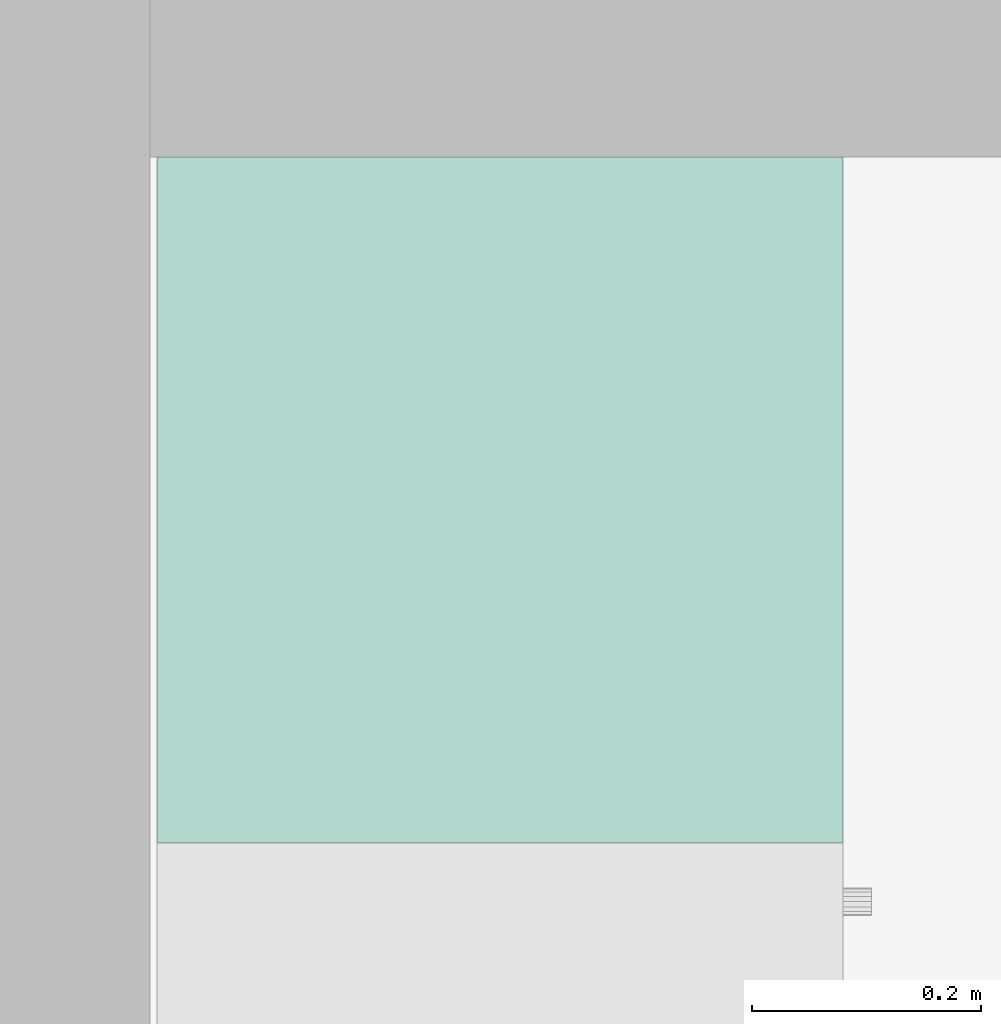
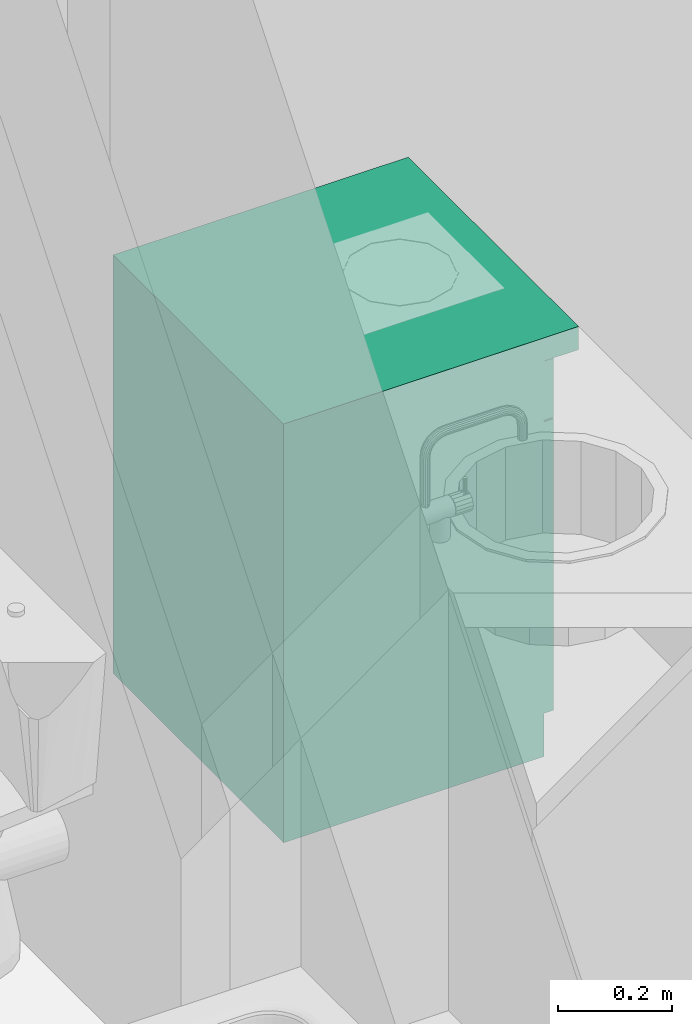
# One storey, part 36 of 165: 1 flow terminal.
"""IFC2X3 building model written with IfcOpenShell, lengths in millimetres."""

from ifc_helpers import new_model, entity, si_unit, converted_unit, money_unit, direction, frame, origin_with_axes, place, context, subcontext, project, spatial, faceted_brep, source, transform, mapped, material, material_list, type_object, element, save


model = new_model("IFC2X3")

# Units and contexts
model_context = context("Model", 3, precision=1e-05, world=origin_with_axes(), true_north=direction((0.0, 1.0)))
body_context = subcontext(model_context, "Body", "Model", "MODEL_VIEW")
ifc_project = project(units=[si_unit("LENGTHUNIT", "METRE", prefix="MILLI"), si_unit("AREAUNIT", "SQUARE_METRE"), si_unit("VOLUMEUNIT", "CUBIC_METRE"), converted_unit("PLANEANGLEUNIT", "DEGREE", entity("IfcPlaneAngleMeasure", 0.0174532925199), si_unit("PLANEANGLEUNIT", "RADIAN"), dimensions=[0, 0, 0, 0, 0, 0, 0]), si_unit("SOLIDANGLEUNIT", "STERADIAN"), money_unit("USD"), converted_unit("TIMEUNIT", "Year", entity("IfcTimeMeasure", 31556926.0), si_unit("TIMEUNIT", "SECOND"), dimensions=[0, 0, 0, 0, 0, 0, 0]), si_unit("MASSUNIT", "GRAM"), si_unit("THERMODYNAMICTEMPERATUREUNIT", "DEGREE_CELSIUS"), si_unit("LUMINOUSINTENSITYUNIT", "LUMEN")], contexts=[model_context])

# Site, building, storey
site_placement = place(None, origin_with_axes())
site = spatial("IfcSite", under=ifc_project, at=site_placement, Name="Site", CompositionType="ELEMENT")
building_placement = place(site_placement, origin_with_axes())
building = spatial("IfcBuilding", under=site, at=building_placement, Name="Building", CompositionType="ELEMENT")
storey_placement = place(building_placement, frame((0.0, 0.0, 6300.0), z_axis=(0.0, 0.0, 1.0), x_axis=(1.0, 0.0, 0.0)))
storey = spatial("IfcBuildingStorey", under=building, at=storey_placement, Name="4KORRUS", CompositionType="ELEMENT", Elevation=6300.0)

# Flow terminal
ifc_material = material(Name="Background")
ifc_material_list = material_list([ifc_material])
sanitary_terminal_type = type_object("IfcSanitaryTerminalType", Name="Cabinet Base Single Door 19", PredefinedType="SINK")
shared_shape = source(origin_with_axes(), body_context, "Body", "Brep", [
    faceted_brep([(20.0, 70.0, 710.0), (580.0, 70.0, 710.0), (580.0, 70.0, 730.0), (20.0, 70.0, 730.0), (20.0, 580.0, 710.0), (580.0, 580.0, 710.0), (580.0, 580.0, 730.0), (20.0, 580.0, 730.0)], [[[0, 1, 2, 3]], [[0, 4, 5, 1]], [[1, 5, 6, 2]], [[3, 2, 6, 7]], [[4, 0, 3, 7]], [[5, 4, 7, 6]]]),
    faceted_brep([(0.0, 70.0, 0.0), (600.0, 70.0, 0.0), (600.0, 70.0, 90.0), (0.0, 70.0, 90.0), (0.0, 600.0, 0.0), (600.0, 600.0, 0.0), (600.0, 600.0, 90.0), (0.0, 600.0, 90.0)], [[[0, 1, 2, 3]], [[0, 4, 5, 1]], [[1, 5, 6, 2]], [[3, 2, 6, 7]], [[4, 0, 3, 7]], [[5, 4, 7, 6]]]),
    faceted_brep([(0.0, 70.0, 830.0), (20.0, 70.0, 830.0), (20.0, 70.0, 850.0), (0.0, 70.0, 850.0), (0.0, 600.0, 830.0), (20.0, 600.0, 830.0), (580.0, 600.0, 830.0), (600.0, 600.0, 830.0), (600.0, 70.0, 830.0), (580.0, 70.0, 830.0), (580.0, 70.0, 850.0), (600.0, 70.0, 850.0), (600.0, 600.0, 850.0), (580.0, 600.0, 850.0), (20.0, 600.0, 850.0), (0.0, 600.0, 850.0)], [[[0, 1, 2, 3]], [[0, 4, 5, 6, 7, 8, 9, 1]], [[1, 9, 10, 2]], [[3, 2, 10, 11, 12, 13, 14, 15]], [[4, 0, 3, 15]], [[5, 4, 15, 14]], [[6, 5, 14, 13]], [[7, 6, 13, 12]], [[8, 7, 12, 11]], [[9, 8, 11, 10]]]),
    faceted_brep([(0.0, 70.0, 90.0), (20.0, 70.0, 90.0), (20.0, 70.0, 110.0), (0.0, 70.0, 110.0), (0.0, 600.0, 90.0), (20.0, 600.0, 90.0), (580.0, 600.0, 90.0), (600.0, 600.0, 90.0), (600.0, 70.0, 90.0), (580.0, 70.0, 90.0), (580.0, 70.0, 110.0), (600.0, 70.0, 110.0), (600.0, 600.0, 110.0), (580.0, 600.0, 110.0), (20.0, 600.0, 110.0), (0.0, 600.0, 110.0)], [[[0, 1, 2, 3]], [[0, 4, 5, 6, 7, 8, 9, 1]], [[1, 9, 10, 2]], [[3, 2, 10, 11, 12, 13, 14, 15]], [[4, 0, 3, 15]], [[5, 4, 15, 14]], [[6, 5, 14, 13]], [[7, 6, 13, 12]], [[8, 7, 12, 11]], [[9, 8, 11, 10]]]),
    faceted_brep([(0.0, 70.0, 110.0), (20.0, 70.0, 110.0), (20.0, 70.0, 830.0), (0.0, 70.0, 830.0), (0.0, 600.0, 110.0), (600.0, 600.0, 110.0), (600.0, 70.0, 110.0), (580.0, 70.0, 110.0), (580.0, 580.0, 110.0), (20.0, 580.0, 110.0), (20.0, 580.0, 830.0), (580.0, 580.0, 830.0), (580.0, 70.0, 830.0), (600.0, 70.0, 830.0), (600.0, 600.0, 830.0), (0.0, 600.0, 830.0)], [[[0, 1, 2, 3]], [[0, 4, 5, 6, 7, 8, 9, 1]], [[1, 9, 10, 2]], [[3, 2, 10, 11, 12, 13, 14, 15]], [[4, 0, 3, 15]], [[5, 4, 15, 14]], [[6, 5, 14, 13]], [[7, 6, 13, 12]], [[8, 7, 12, 11]], [[9, 8, 11, 10]]]),
    faceted_brep([(580.0, 70.0, 385.0), (580.0, 580.0, 385.0), (580.0, 580.0, 405.0), (580.0, 70.0, 405.0), (20.0, 70.0, 385.0), (20.0, 580.0, 385.0), (20.0, 580.0, 405.0), (20.0, 70.0, 405.0)], [[[0, 1, 2, 3]], [[0, 4, 5, 1]], [[1, 5, 6, 2]], [[3, 2, 6, 7]], [[4, 0, 3, 7]], [[5, 4, 7, 6]]]),
    faceted_brep([(0.0, 0.0, 850.0), (600.0, 0.0, 850.0), (600.0, 0.0, 900.0), (0.0, 0.0, 900.0), (0.0, 600.0, 850.0), (600.0, 600.0, 850.0), (600.0, 600.0, 900.0), (0.0, 600.0, 900.0)], [[[0, 1, 2, 3]], [[0, 4, 5, 1]], [[1, 5, 6, 2]], [[3, 2, 6, 7]], [[4, 0, 3, 7]], [[5, 4, 7, 6]]]),
    faceted_brep([(1.5, 70.0, 721.5), (598.5, 70.0, 721.5), (598.5, 50.0, 721.5), (1.5, 50.0, 721.5), (1.5, 70.0, 848.5), (598.5, 70.0, 848.5), (598.5, 50.0, 848.5), (1.5, 50.0, 848.5)], [[[0, 1, 2, 3]], [[0, 4, 5, 1]], [[1, 5, 6, 2]], [[3, 2, 6, 7]], [[4, 0, 3, 7]], [[5, 4, 7, 6]]]),
    faceted_brep([(295.408, 50.0, 773.913), (291.515, 50.0, 776.515), (288.913, 50.0, 780.408), (288.0, 50.0, 785.0), (288.913, 50.0, 789.592), (291.515, 50.0, 793.485), (295.408, 50.0, 796.087), (300.0, 50.0, 797.0), (304.592, 50.0, 796.087), (308.485, 50.0, 793.485), (311.087, 50.0, 789.592), (312.0, 50.0, 785.0), (311.087, 50.0, 780.408), (308.485, 50.0, 776.515), (304.592, 50.0, 773.913), (300.0, 50.0, 773.0), (295.408, 25.0, 773.913), (291.515, 25.0, 776.515), (288.913, 25.0, 780.408), (288.0, 25.0, 785.0), (288.913, 25.0, 789.592), (291.515, 25.0, 793.485), (295.408, 25.0, 796.087), (300.0, 25.0, 797.0), (304.592, 25.0, 796.087), (308.485, 25.0, 793.485), (311.087, 25.0, 789.592), (312.0, 25.0, 785.0), (311.087, 25.0, 780.408), (308.485, 25.0, 776.515), (304.592, 25.0, 773.913), (300.0, 25.0, 773.0)], [[[0, 1, 2, 3, 4, 5, 6, 7, 8, 9, 10, 11, 12, 13, 14, 15]], [[1, 0, 16, 17]], [[2, 1, 17, 18]], [[3, 2, 18, 19]], [[4, 3, 19, 20]], [[5, 4, 20, 21]], [[6, 5, 21, 22]], [[7, 6, 22, 23]], [[8, 7, 23, 24]], [[9, 8, 24, 25]], [[10, 9, 25, 26]], [[11, 10, 26, 27]], [[12, 11, 27, 28]], [[13, 12, 28, 29]], [[14, 13, 29, 30]], [[15, 14, 30, 31]], [[0, 15, 31, 16]], [[16, 31, 30, 29, 28, 27, 26, 25, 24, 23, 22, 21, 20, 19, 18, 17]]]),
    faceted_brep([(1.5, 70.0, 91.5), (598.5, 70.0, 91.5), (598.5, 50.0, 91.5), (1.5, 50.0, 91.5), (1.5, 70.0, 718.5), (598.5, 70.0, 718.5), (598.5, 50.0, 718.5), (1.5, 50.0, 718.5)], [[[0, 1, 2, 3]], [[0, 4, 5, 1]], [[1, 5, 6, 2]], [[3, 2, 6, 7]], [[4, 0, 3, 7]], [[5, 4, 7, 6]]]),
    faceted_brep([(559.587, 50.0, 636.908), (556.985, 50.0, 633.015), (553.092, 50.0, 630.413), (548.5, 50.0, 629.5), (543.908, 50.0, 630.413), (540.015, 50.0, 633.015), (537.413, 50.0, 636.908), (536.5, 50.0, 641.5), (537.413, 50.0, 646.092), (540.015, 50.0, 649.985), (543.908, 50.0, 652.587), (548.5, 50.0, 653.5), (553.092, 50.0, 652.587), (556.985, 50.0, 649.985), (559.587, 50.0, 646.092), (560.5, 50.0, 641.5), (559.587, 25.0, 636.908), (556.985, 25.0, 633.015), (553.092, 25.0, 630.413), (548.5, 25.0, 629.5), (543.908, 25.0, 630.413), (540.015, 25.0, 633.015), (537.413, 25.0, 636.908), (536.5, 25.0, 641.5), (537.413, 25.0, 646.092), (540.015, 25.0, 649.985), (543.908, 25.0, 652.587), (548.5, 25.0, 653.5), (553.092, 25.0, 652.587), (556.985, 25.0, 649.985), (559.587, 25.0, 646.092), (560.5, 25.0, 641.5)], [[[0, 1, 2, 3, 4, 5, 6, 7, 8, 9, 10, 11, 12, 13, 14, 15]], [[1, 0, 16, 17]], [[2, 1, 17, 18]], [[3, 2, 18, 19]], [[4, 3, 19, 20]], [[5, 4, 20, 21]], [[6, 5, 21, 22]], [[7, 6, 22, 23]], [[8, 7, 23, 24]], [[9, 8, 24, 25]], [[10, 9, 25, 26]], [[11, 10, 26, 27]], [[12, 11, 27, 28]], [[13, 12, 28, 29]], [[14, 13, 29, 30]], [[15, 14, 30, 31]], [[0, 15, 31, 16]], [[16, 31, 30, 29, 28, 27, 26, 25, 24, 23, 22, 21, 20, 19, 18, 17]]]),
])
flow_terminal_placement = place(storey_placement, frame((-23384.008308, -13789.2398994, 0.0), z_axis=(0.0, 0.0, 1.0), x_axis=(0.0, 1.0, 0.0)))
element("IfcFlowTerminal", 1, at=flow_terminal_placement, inside=storey, type_object=sanitary_terminal_type, material=ifc_material_list, Name="FU - 007", context=body_context, shape_type="MappedRepresentation", body=[
    mapped(shared_shape, transform((0.0, 0.0, 0.0))),
])

save(model, "model.ifc")
